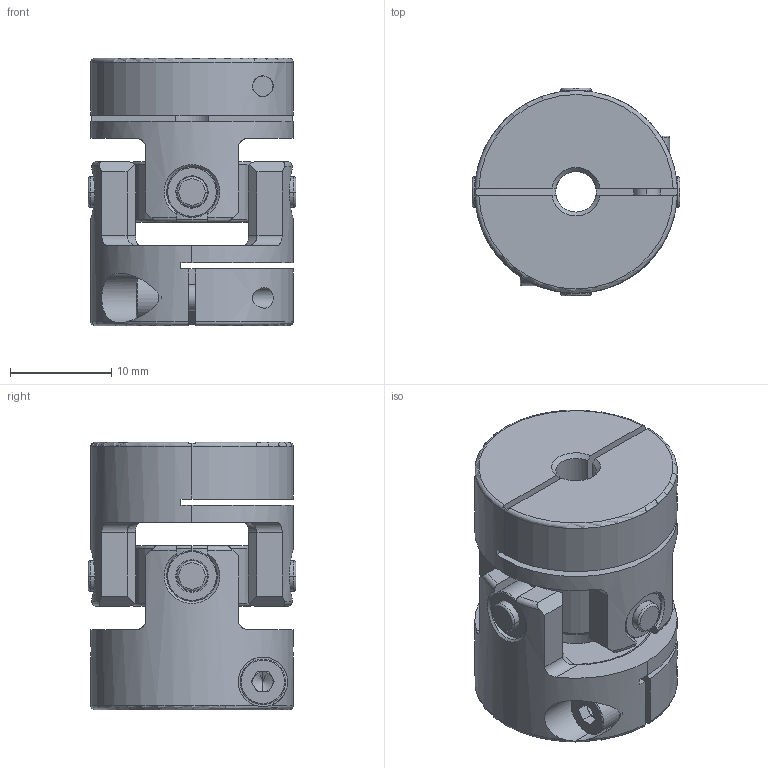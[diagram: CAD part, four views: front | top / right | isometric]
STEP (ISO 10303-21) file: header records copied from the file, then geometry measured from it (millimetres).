
FILE_DESCRIPTION (( 'STEP AP203' ), '1' );
FILE_NAME ('SCJB-20C-4X8_203.STEP', '2013-03-08T03:44:25', ( '' ), ( '' ), 'SwSTEP 2.0', 'SolidWorks 2012', '' );
FILE_SCHEMA (( 'CONFIG_CONTROL_DESIGN' ));
Length unit declared in the file: millimetre
Products named in the file (1): SCJB-20C-4X8_203
Bounding box: 20.5 x 20.5 x 26.4 mm (x, y, z)
Volume: 5652.7 mm3; surface area: 4823.4 mm2
Topology: 1 solids, 1 shells, 337 faces, 864 edges, 535 vertices
Faces by surface type: plane 116, cylinder 96, torus 76, cone 37, bspline 12
Entity records: 15612 total; most frequent: CARTESIAN_POINT 7472, ORIENTED_EDGE 1720, DIRECTION 1705, EDGE_CURVE 860, AXIS2_PLACEMENT_3D 706, VERTEX_POINT 535, CIRCLE 380, EDGE_LOOP 361
